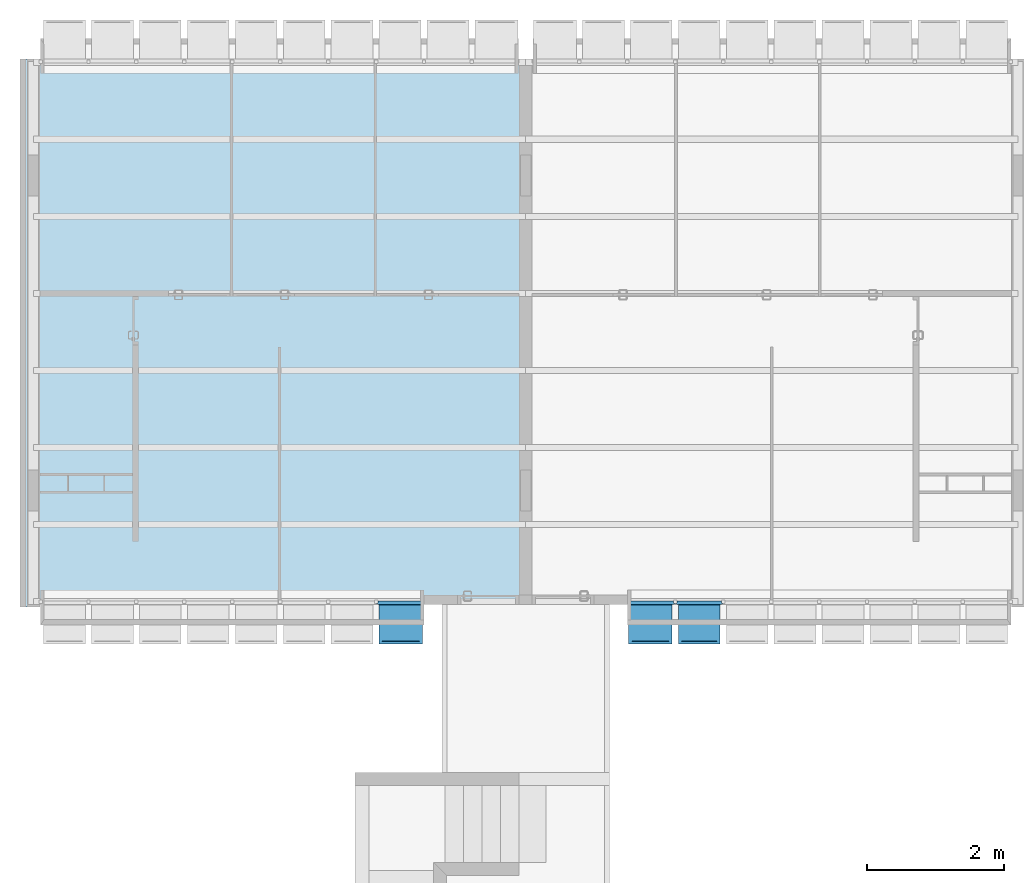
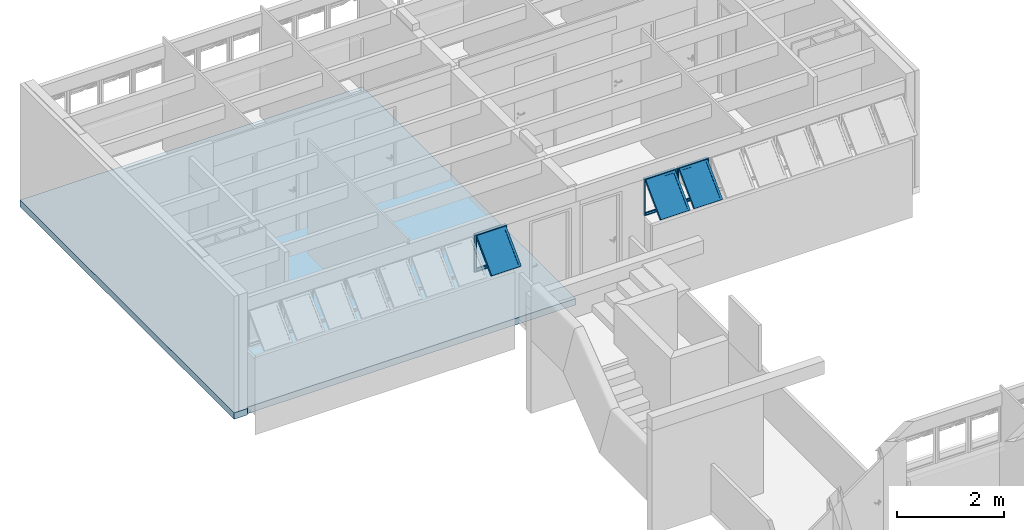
# One storey, part 12 of 41: 3 plates, 1 slab, 2 elements without a shape of their own.
"""IFC4 building model written with IfcOpenShell, lengths in millimetres."""

from ifc_helpers import new_model, entity, si_unit, converted_unit, derived_unit, direction, frame, origin_with_axes, place, context, subcontext, project, spatial, line, indexed_curve, outline, extrude, polygons, source, transform, mapped, material, layer, layer_set, layer_usage, constituent, constituent_set, type_object, element, aggregate, save


model = new_model("IFC4")

# Units and contexts
model_context = context("Model", 3, precision=0.01, world=origin_with_axes(), true_north=direction((0.0, 1.0)))
body_context = subcontext(model_context, "Body", "Model", "MODEL_VIEW")
ifc_project = project(units=[si_unit("LENGTHUNIT", "METRE", prefix="MILLI"), si_unit("AREAUNIT", "SQUARE_METRE"), si_unit("VOLUMEUNIT", "CUBIC_METRE"), converted_unit("PLANEANGLEUNIT", "DEGREE", entity("IfcPlaneAngleMeasure", 0.0174532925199), si_unit("PLANEANGLEUNIT", "RADIAN"), dimensions=[0, 0, 0, 0, 0, 0, 0]), converted_unit("TIMEUNIT", "Year", entity("IfcTimeMeasure", 31556926.0), si_unit("TIMEUNIT", "SECOND"), dimensions=[0, 0, 1, 0, 0, 0, 0]), si_unit("MASSUNIT", "GRAM", prefix="KILO"), si_unit("THERMODYNAMICTEMPERATUREUNIT", "DEGREE_CELSIUS"), si_unit("LUMINOUSINTENSITYUNIT", "LUMEN"), si_unit("ENERGYUNIT", "JOULE", prefix="MEGA"), derived_unit("THERMALCONDUCTANCEUNIT", [(si_unit("POWERUNIT", "WATT"), 1), (si_unit("LENGTHUNIT", "METRE"), -1), (si_unit("THERMODYNAMICTEMPERATUREUNIT", "KELVIN"), -1)]), derived_unit("SPECIFICHEATCAPACITYUNIT", [(si_unit("ENERGYUNIT", "JOULE"), 1), (si_unit("MASSUNIT", "GRAM", prefix="KILO"), -1), (si_unit("THERMODYNAMICTEMPERATUREUNIT", "KELVIN"), -1)]), derived_unit("MASSDENSITYUNIT", [(si_unit("MASSUNIT", "GRAM", prefix="KILO"), 1), (si_unit("VOLUMEUNIT", "CUBIC_METRE"), -1)])], contexts=[model_context])

# Site, building, storey
site_placement = place(None, origin_with_axes())
site = spatial("IfcSite", under=ifc_project, at=site_placement, Name="Local", CompositionType="ELEMENT")
building_placement = place(site_placement, origin_with_axes())
building = spatial("IfcBuilding", under=site, at=building_placement, Name="Construção", CompositionType="ELEMENT")
storey_placement = place(building_placement, frame((0.0, 0.0, 2650.0), z_axis=(0.0, 0.0, 1.0), x_axis=(1.0, 0.0, 0.0)))
storey = spatial("IfcBuildingStorey", under=building, at=storey_placement, Name="Segundo Pavimento", CompositionType="ELEMENT", Elevation=2650.0)

# Slab
ifc_material_1 = material(Name="Concreto Armado Moldado in Loco - Estrutural")
ifc_layer = layer(ifc_material_1, 150.0, ventilated="UNKNOWN", Name="Concreto Armado Moldado in Loco - Estrutural")
ifc_layer_set = layer_set([ifc_layer], Name="Concreto Armado Moldado in Loco - Estrutural 150")
ifc_layer_usage = layer_usage(ifc_layer_set, "AXIS3", "NEGATIVE", 150.0)
slab_type = type_object("IfcSlabType", Name="Concreto Armado Moldado in Loco - Estrutural 150", PredefinedType="FLOOR")
slab_placement = place(storey_placement, frame((0.0, 25860.0, 0.0), z_axis=(0.0, 0.0, 1.0), x_axis=(1.0, 0.0, 0.0)))
element("IfcSlab", 1, at=slab_placement, inside=storey, type_object=slab_type, material=ifc_layer_usage, Name="APTO7-LAJE-000", PredefinedType="FLOOR", context=body_context, shape_type="SweptSolid", body=[
    extrude(outline(indexed_curve([(0.0, 0.0), (0.0, -7999.99999872), (289.999999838, -8000.00000006), (290.0, -7965.0), (5900.0, -7965.0), (6160.00008404, -7964.99999866), (7385.0, -7964.99999866), (7385.0, 0.0), (299.999978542, 0.0)], segments=[line(1, 2, 3, 4, 5, 6, 7, 8, 9, 1)])), frame((0.0, 0.0, -150.0), z_axis=(0.0, 0.0, 1.0), x_axis=(1.0, 0.0, 0.0)), (0.0, 0.0, 1.0), 150.0),
])

# Window, plates
window_type = type_object("IfcWindowType", Name="Tipo de Parede Cortina", PartitioningType="NOTDEFINED", PredefinedType="NOTDEFINED")
window_1_placement = place(storey_placement, frame((12020.0, 17910.0, 1355.00007107), z_axis=(0.0, 0.0, 1.0), x_axis=(1.0, 0.0, 0.0)))
window_1 = element("IfcWindow", 2, at=window_1_placement, inside=storey, type_object=window_type, Name="APTO8-JANELA-000", PredefinedType="NOTDEFINED")
ifc_material_2 = material(Name="Alumínio")
ifc_constituent_1 = constituent(ifc_material_2, Name="Alumínio")
ifc_material_3 = material(Name="Vidro")
ifc_constituent_2 = constituent(ifc_material_3, Name="Vidro")
ifc_constituent_set_1 = constituent_set(constituents=[ifc_constituent_1, ifc_constituent_2])
plate_type_1 = type_object("IfcPlateType", Name="Painel Principal 690 x 845 x 20", PredefinedType="CURTAIN_PANEL")
shared_shape_1 = source(origin_with_axes(), body_context, "Body", "Tessellation", [
    polygons([(-25.0000036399, 0.0, -40.0), (-25.0000036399, 0.0, -35.0), (-674.999997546, 0.0, -35.0), (-674.999997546, 0.0, -40.0), (-70.0000036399, 45.0, -40.0), (-70.0000036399, 45.0, -35.0), (-629.999997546, 45.0, -35.0), (-629.999997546, 45.0, -40.0)], [[[1, 2, 3, 4]], [[5, 6, 2, 1]], [[2, 6, 7, 3]], [[4, 3, 7, 8]], [[1, 4, 8, 5]], [[8, 7, 6, 5]]], closed=True),
    polygons([(-674.999997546, 0.0, -40.0), (-674.999997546, 0.0, -35.0), (-674.999997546, 844.999891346, -35.0), (-674.999997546, 844.999891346, -40.0), (-629.999997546, 45.0, -40.0), (-629.999997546, 45.0, -35.0), (-629.999997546, 799.999891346, -35.0), (-629.999997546, 799.999891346, -40.0)], [[[1, 2, 3, 4]], [[5, 6, 2, 1]], [[2, 6, 7, 3]], [[4, 3, 7, 8]], [[1, 4, 8, 5]], [[8, 7, 6, 5]]], closed=True),
    polygons([(-25.0000036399, 844.999891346, -40.0), (-25.0000036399, 844.999891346, -35.0), (-70.0000036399, 799.999891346, -35.0), (-70.0000036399, 799.999891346, -40.0), (-674.999997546, 844.999891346, -40.0), (-674.999997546, 844.999891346, -35.0), (-629.999997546, 799.999891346, -35.0), (-629.999997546, 799.999891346, -40.0)], [[[1, 2, 3, 4]], [[5, 6, 2, 1]], [[2, 6, 7, 3]], [[4, 3, 7, 8]], [[1, 4, 8, 5]], [[8, 7, 6, 5]]], closed=True),
    polygons([(-25.0000036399, 0.0, -40.0), (-25.0000036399, 0.0, -35.0), (-70.0000036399, 45.0, -35.0), (-70.0000036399, 45.0, -40.0), (-25.0000036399, 844.999891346, -40.0), (-25.0000036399, 844.999891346, -35.0), (-70.0000036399, 799.999891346, -35.0), (-70.0000036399, 799.999891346, -40.0)], [[[1, 2, 3, 4]], [[5, 6, 2, 1]], [[2, 6, 7, 3]], [[4, 3, 7, 8]], [[1, 4, 8, 5]], [[8, 7, 6, 5]]], closed=True),
    polygons([(-25.0000036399, 0.0, -35.0), (-25.0000036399, 0.0, 15.0), (-674.999997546, 0.0, 15.0), (-674.999997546, 0.0, -35.0), (-45.0000036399, 20.0, -35.0), (-45.0000036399, 20.0, 15.0), (-654.999997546, 20.0, 15.0), (-654.999997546, 20.0, -35.0)], [[[1, 2, 3, 4]], [[5, 6, 2, 1]], [[2, 6, 7, 3]], [[4, 3, 7, 8]], [[1, 4, 8, 5]], [[8, 7, 6, 5]]], closed=True),
    polygons([(-674.999997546, 0.0, -35.0), (-674.999997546, 0.0, 15.0), (-674.999997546, 844.999891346, 15.0), (-674.999997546, 844.999891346, -35.0), (-654.999997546, 20.0, -35.0), (-654.999997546, 20.0, 15.0), (-654.999997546, 824.999891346, 15.0), (-654.999997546, 824.999891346, -35.0)], [[[1, 2, 3, 4]], [[5, 6, 2, 1]], [[2, 6, 7, 3]], [[4, 3, 7, 8]], [[1, 4, 8, 5]], [[8, 7, 6, 5]]], closed=True),
    polygons([(-25.0000036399, 844.999891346, -35.0), (-25.0000036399, 844.999891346, 15.0), (-45.0000036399, 824.999891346, 15.0), (-45.0000036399, 824.999891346, -35.0), (-674.999997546, 844.999891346, -35.0), (-674.999997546, 844.999891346, 15.0), (-654.999997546, 824.999891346, 15.0), (-654.999997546, 824.999891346, -35.0)], [[[1, 2, 3, 4]], [[5, 6, 2, 1]], [[2, 6, 7, 3]], [[4, 3, 7, 8]], [[1, 4, 8, 5]], [[8, 7, 6, 5]]], closed=True),
    polygons([(-25.0000036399, 0.0, -35.0), (-25.0000036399, 0.0, 15.0), (-45.0000036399, 20.0, 15.0), (-45.0000036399, 20.0, -35.0), (-25.0000036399, 844.999891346, -35.0), (-25.0000036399, 844.999891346, 15.0), (-45.0000036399, 824.999891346, 15.0), (-45.0000036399, 824.999891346, -35.0)], [[[1, 2, 3, 4]], [[5, 6, 2, 1]], [[2, 6, 7, 3]], [[4, 3, 7, 8]], [[1, 4, 8, 5]], [[8, 7, 6, 5]]], closed=True),
    polygons([(-694.999995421, 0.0, -10.0), (-694.999995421, 0.0, 10.0), (-694.999995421, 844.999891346, 10.0), (-694.999995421, 844.999891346, -10.0), (-674.999997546, 0.0, -10.0), (-674.999997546, 0.0, 10.0), (-674.999997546, 844.999891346, 10.0), (-674.999997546, 844.999891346, -10.0)], [[[1, 2, 3, 4]], [[5, 6, 2, 1]], [[2, 6, 7, 3]], [[4, 3, 7, 8]], [[1, 4, 8, 5]], [[8, 7, 6, 5]]], closed=True),
    polygons([(-5.00000576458, 844.999891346, -10.0), (-5.00000576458, 844.999891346, 10.0), (-5.00000576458, 0.0, 10.0), (-5.00000576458, 0.0, -10.0), (-25.0000036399, 844.999891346, -10.0), (-25.0000036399, 844.999891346, 10.0), (-25.0000036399, 0.0, 10.0), (-25.0000036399, 0.0, -10.0)], [[[1, 2, 3, 4]], [[5, 6, 2, 1]], [[2, 6, 7, 3]], [[4, 3, 7, 8]], [[1, 4, 8, 5]], [[8, 7, 6, 5]]], closed=True),
    polygons([(-90.0000036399, 252.243475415, 517.045737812), (-90.0000036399, 291.13434838, 555.936610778), (-90.0000036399, 796.715620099, 50.3553390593), (-90.0000036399, 757.824747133, 11.4644660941), (-45.0000036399, 220.423670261, 548.865542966), (-45.0000036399, 259.314543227, 587.756415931), (-45.0000036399, 828.535425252, 18.5355339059), (-45.0000036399, 789.644552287, -20.3553390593)], [[[1, 2, 3, 4]], [[5, 6, 2, 1]], [[2, 6, 7, 3]], [[4, 3, 7, 8]], [[1, 4, 8, 5]], [[8, 7, 6, 5]]], closed=True),
    polygons([(-654.999997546, 220.423670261, 548.865542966), (-654.999997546, 259.314543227, 587.756415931), (-654.999997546, 828.535425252, 18.5355339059), (-654.999997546, 789.644552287, -20.3553390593), (-609.999997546, 252.243475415, 517.045737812), (-609.999997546, 291.13434838, 555.936610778), (-609.999997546, 796.715620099, 50.3553390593), (-609.999997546, 757.824747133, 11.4644660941)], [[[1, 2, 3, 4]], [[5, 6, 2, 1]], [[2, 6, 7, 3]], [[4, 3, 7, 8]], [[1, 4, 8, 5]], [[8, 7, 6, 5]]], closed=True),
    polygons([(-654.999997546, 220.423670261, 548.865542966), (-654.999997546, 259.314543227, 587.756415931), (-609.999997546, 291.13434838, 555.936610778), (-609.999997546, 252.243475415, 517.045737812), (-45.0000036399, 220.423670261, 548.865542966), (-45.0000036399, 259.314543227, 587.756415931), (-90.0000036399, 291.13434838, 555.936610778), (-90.0000036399, 252.243475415, 517.045737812)], [[[1, 2, 3, 4]], [[5, 6, 2, 1]], [[2, 6, 7, 3]], [[4, 3, 7, 8]], [[1, 4, 8, 5]], [[8, 7, 6, 5]]], closed=True),
    polygons([(-45.0000036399, 789.644552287, -20.3553390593), (-45.0000036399, 828.535425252, 18.5355339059), (-90.0000036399, 796.715620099, 50.3553390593), (-90.0000036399, 757.824747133, 11.4644660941), (-654.999997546, 789.644552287, -20.3553390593), (-654.999997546, 828.535425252, 18.5355339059), (-609.999997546, 796.715620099, 50.3553390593), (-609.999997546, 757.824747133, 11.4644660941)], [[[1, 2, 3, 4]], [[5, 6, 2, 1]], [[2, 6, 7, 3]], [[4, 3, 7, 8]], [[1, 4, 8, 5]], [[8, 7, 6, 5]]], closed=True),
    polygons([(-90.0000036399, 272.749572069, 537.551834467), (-90.0000036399, 284.063280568, 548.865542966), (-609.999997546, 284.063280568, 548.865542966), (-609.999997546, 272.749572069, 537.551834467), (-90.0000036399, 778.330843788, 31.9705627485), (-90.0000036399, 789.644552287, 43.2842712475), (-609.999997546, 789.644552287, 43.2842712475), (-609.999997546, 778.330843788, 31.9705627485)], [[[1, 2, 3, 4]], [[5, 6, 2, 1]], [[2, 6, 7, 3]], [[4, 3, 7, 8]], [[1, 4, 8, 5]], [[8, 7, 6, 5]]], closed=True),
])
plate_1_placement = place(window_1_placement, frame((-2100.0, 0.0, 422.499964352), z_axis=(0.0, 0.0, 1.0), x_axis=(1.0, 0.0, 0.0)))
plate_1 = element("IfcPlate", 3, at=plate_1_placement, type_object=plate_type_1, material=ifc_constituent_set_1, Name="APTO8-Painel-Prin-029", PredefinedType="CURTAIN_PANEL", context=body_context, shape_type="MappedRepresentation", body=[
    mapped(shared_shape_1, transform((350.0, 0.0, -422.499964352), x_axis=(1.0, 0.0, 0.0), y_axis=(0.0, 0.0, 1.0), z_axis=(0.0, -1.0, 0.0))),
])
ifc_constituent_3 = constituent(ifc_material_2, Name="Alumínio")
ifc_constituent_4 = constituent(ifc_material_3, Name="Vidro")
ifc_constituent_set_2 = constituent_set(constituents=[ifc_constituent_3, ifc_constituent_4])
plate_type_2 = type_object("IfcPlateType", Name="Painel Principal 695 x 845 x 20", PredefinedType="CURTAIN_PANEL")
shared_shape_2 = source(origin_with_axes(), body_context, "Body", "Tessellation", [
    polygons([(-25.0000062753, 0.0, -40.0), (-25.0000062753, 0.0, -35.0), (-699.999999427, 0.0, -35.0), (-699.999999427, 0.0, -40.0), (-70.0000062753, 45.0, -40.0), (-70.0000062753, 45.0, -35.0), (-654.999999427, 45.0, -35.0), (-654.999999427, 45.0, -40.0)], [[[1, 2, 3, 4]], [[5, 6, 2, 1]], [[2, 6, 7, 3]], [[4, 3, 7, 8]], [[1, 4, 8, 5]], [[8, 7, 6, 5]]], closed=True),
    polygons([(-699.999999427, 0.0, -40.0), (-699.999999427, 0.0, -35.0), (-699.999999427, 844.999980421, -35.0), (-699.999999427, 844.999980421, -40.0), (-654.999999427, 45.0, -40.0), (-654.999999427, 45.0, -35.0), (-654.999999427, 799.999980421, -35.0), (-654.999999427, 799.999980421, -40.0)], [[[1, 2, 3, 4]], [[5, 6, 2, 1]], [[2, 6, 7, 3]], [[4, 3, 7, 8]], [[1, 4, 8, 5]], [[8, 7, 6, 5]]], closed=True),
    polygons([(-25.0000062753, 844.999980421, -40.0), (-25.0000062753, 844.999980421, -35.0), (-70.0000062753, 799.999980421, -35.0), (-70.0000062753, 799.999980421, -40.0), (-699.999999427, 844.999980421, -40.0), (-699.999999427, 844.999980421, -35.0), (-654.999999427, 799.999980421, -35.0), (-654.999999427, 799.999980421, -40.0)], [[[1, 2, 3, 4]], [[5, 6, 2, 1]], [[2, 6, 7, 3]], [[4, 3, 7, 8]], [[1, 4, 8, 5]], [[8, 7, 6, 5]]], closed=True),
    polygons([(-25.0000062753, 0.0, -40.0), (-25.0000062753, 0.0, -35.0), (-70.0000062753, 45.0, -35.0), (-70.0000062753, 45.0, -40.0), (-25.0000062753, 844.999980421, -40.0), (-25.0000062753, 844.999980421, -35.0), (-70.0000062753, 799.999980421, -35.0), (-70.0000062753, 799.999980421, -40.0)], [[[1, 2, 3, 4]], [[5, 6, 2, 1]], [[2, 6, 7, 3]], [[4, 3, 7, 8]], [[1, 4, 8, 5]], [[8, 7, 6, 5]]], closed=True),
    polygons([(-25.0000062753, 0.0, -35.0), (-25.0000062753, 0.0, 15.0), (-699.999999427, 0.0, 15.0), (-699.999999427, 0.0, -35.0), (-45.0000062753, 20.0, -35.0), (-45.0000062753, 20.0, 15.0), (-679.999999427, 20.0, 15.0), (-679.999999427, 20.0, -35.0)], [[[1, 2, 3, 4]], [[5, 6, 2, 1]], [[2, 6, 7, 3]], [[4, 3, 7, 8]], [[1, 4, 8, 5]], [[8, 7, 6, 5]]], closed=True),
    polygons([(-699.999999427, 0.0, -35.0), (-699.999999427, 0.0, 15.0), (-699.999999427, 844.999980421, 15.0), (-699.999999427, 844.999980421, -35.0), (-679.999999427, 20.0, -35.0), (-679.999999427, 20.0, 15.0), (-679.999999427, 824.999980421, 15.0), (-679.999999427, 824.999980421, -35.0)], [[[1, 2, 3, 4]], [[5, 6, 2, 1]], [[2, 6, 7, 3]], [[4, 3, 7, 8]], [[1, 4, 8, 5]], [[8, 7, 6, 5]]], closed=True),
    polygons([(-25.0000062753, 844.999980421, -35.0), (-25.0000062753, 844.999980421, 15.0), (-45.0000062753, 824.999980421, 15.0), (-45.0000062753, 824.999980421, -35.0), (-699.999999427, 844.999980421, -35.0), (-699.999999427, 844.999980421, 15.0), (-679.999999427, 824.999980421, 15.0), (-679.999999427, 824.999980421, -35.0)], [[[1, 2, 3, 4]], [[5, 6, 2, 1]], [[2, 6, 7, 3]], [[4, 3, 7, 8]], [[1, 4, 8, 5]], [[8, 7, 6, 5]]], closed=True),
    polygons([(-25.0000062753, 0.0, -35.0), (-25.0000062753, 0.0, 15.0), (-45.0000062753, 20.0, 15.0), (-45.0000062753, 20.0, -35.0), (-25.0000062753, 844.999980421, -35.0), (-25.0000062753, 844.999980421, 15.0), (-45.0000062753, 824.999980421, 15.0), (-45.0000062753, 824.999980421, -35.0)], [[[1, 2, 3, 4]], [[5, 6, 2, 1]], [[2, 6, 7, 3]], [[4, 3, 7, 8]], [[1, 4, 8, 5]], [[8, 7, 6, 5]]], closed=True),
    polygons([(-5.00000629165, 844.999980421, -10.0), (-5.00000629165, 844.999980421, 10.0), (-5.00000629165, 0.0, 10.0), (-5.00000629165, 0.0, -10.0), (-25.0000062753, 844.999980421, -10.0), (-25.0000062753, 844.999980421, 10.0), (-25.0000062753, 0.0, 10.0), (-25.0000062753, 0.0, -10.0)], [[[1, 2, 3, 4]], [[5, 6, 2, 1]], [[2, 6, 7, 3]], [[4, 3, 7, 8]], [[1, 4, 8, 5]], [[8, 7, 6, 5]]], closed=True),
    polygons([(-90.0000062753, 252.243501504, 517.045800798), (-90.0000062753, 291.134374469, 555.936673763), (-90.0000062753, 796.715709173, 50.3553390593), (-90.0000062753, 757.824836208, 11.4644660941), (-45.0000062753, 220.423696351, 548.865605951), (-45.0000062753, 259.314569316, 587.756478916), (-45.0000062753, 828.535514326, 18.5355339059), (-45.0000062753, 789.644641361, -20.3553390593)], [[[1, 2, 3, 4]], [[5, 6, 2, 1]], [[2, 6, 7, 3]], [[4, 3, 7, 8]], [[1, 4, 8, 5]], [[8, 7, 6, 5]]], closed=True),
    polygons([(-679.999999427, 220.423696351, 548.865605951), (-679.999999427, 259.314569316, 587.756478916), (-679.999999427, 828.535514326, 18.5355339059), (-679.999999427, 789.644641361, -20.3553390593), (-634.999999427, 252.243501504, 517.045800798), (-634.999999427, 291.134374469, 555.936673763), (-634.999999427, 796.715709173, 50.3553390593), (-634.999999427, 757.824836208, 11.4644660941)], [[[1, 2, 3, 4]], [[5, 6, 2, 1]], [[2, 6, 7, 3]], [[4, 3, 7, 8]], [[1, 4, 8, 5]], [[8, 7, 6, 5]]], closed=True),
    polygons([(-679.999999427, 220.423696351, 548.865605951), (-679.999999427, 259.314569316, 587.756478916), (-634.999999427, 291.134374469, 555.936673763), (-634.999999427, 252.243501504, 517.045800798), (-45.0000062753, 220.423696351, 548.865605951), (-45.0000062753, 259.314569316, 587.756478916), (-90.0000062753, 291.134374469, 555.936673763), (-90.0000062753, 252.243501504, 517.045800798)], [[[1, 2, 3, 4]], [[5, 6, 2, 1]], [[2, 6, 7, 3]], [[4, 3, 7, 8]], [[1, 4, 8, 5]], [[8, 7, 6, 5]]], closed=True),
    polygons([(-45.0000062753, 789.644641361, -20.3553390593), (-45.0000062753, 828.535514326, 18.5355339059), (-90.0000062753, 796.715709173, 50.3553390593), (-90.0000062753, 757.824836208, 11.4644660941), (-679.999999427, 789.644641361, -20.3553390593), (-679.999999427, 828.535514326, 18.5355339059), (-634.999999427, 796.715709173, 50.3553390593), (-634.999999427, 757.824836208, 11.4644660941)], [[[1, 2, 3, 4]], [[5, 6, 2, 1]], [[2, 6, 7, 3]], [[4, 3, 7, 8]], [[1, 4, 8, 5]], [[8, 7, 6, 5]]], closed=True),
    polygons([(-90.0000062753, 272.749598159, 537.551897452), (-90.0000062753, 284.063306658, 548.865605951), (-634.999999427, 284.063306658, 548.865605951), (-634.999999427, 272.749598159, 537.551897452), (-90.0000062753, 778.330932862, 31.9705627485), (-90.0000062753, 789.644641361, 43.2842712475), (-634.999999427, 789.644641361, 43.2842712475), (-634.999999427, 778.330932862, 31.9705627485)], [[[1, 2, 3, 4]], [[5, 6, 2, 1]], [[2, 6, 7, 3]], [[4, 3, 7, 8]], [[1, 4, 8, 5]], [[8, 7, 6, 5]]], closed=True),
])
plate_2_placement = place(window_1_placement, frame((-2800.0, 0.0, 422.499986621), z_axis=(0.0, 0.0, 1.0), x_axis=(1.0, 0.0, 0.0)))
plate_2 = element("IfcPlate", 4, at=plate_2_placement, type_object=plate_type_2, material=ifc_constituent_set_2, Name="APTO8-Painel-Prin-020", PredefinedType="CURTAIN_PANEL", context=body_context, shape_type="MappedRepresentation", body=[
    mapped(shared_shape_2, transform((350.0, 0.0, -422.499986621), x_axis=(1.0, 0.0, 0.0), y_axis=(0.0, 0.0, 1.0), z_axis=(0.0, -1.0, 0.0))),
])
aggregate(window_1, [plate_1, plate_2])

# Window, plate
window_2_placement = place(storey_placement, frame((2750.0, 17910.0, 1355.00007107), z_axis=(0.0, 0.0, 1.0), x_axis=(1.0, 0.0, 0.0)))
window_2 = element("IfcWindow", 5, at=window_2_placement, inside=storey, type_object=window_type, Name="APTO7-JANELA-000", PredefinedType="NOTDEFINED")
ifc_constituent_5 = constituent(ifc_material_2, Name="Alumínio")
ifc_constituent_6 = constituent(ifc_material_3, Name="Vidro")
ifc_constituent_set_3 = constituent_set(constituents=[ifc_constituent_5, ifc_constituent_6])
shared_shape_3 = source(origin_with_axes(), body_context, "Body", "Tessellation", [
    polygons([(25.0000062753, 0.0, -40.0), (699.999999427, 0.0, -40.0), (699.999999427, 0.0, -35.0), (25.0000062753, 0.0, -35.0), (70.0000062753, 45.0, -40.0), (654.999999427, 45.0, -40.0), (654.999999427, 45.0, -35.0), (70.0000062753, 45.0, -35.0)], [[[1, 2, 3, 4]], [[1, 5, 6, 2]], [[2, 6, 7, 3]], [[4, 3, 7, 8]], [[5, 1, 4, 8]], [[6, 5, 8, 7]]], closed=True),
    polygons([(699.999999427, 0.0, -40.0), (699.999999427, 844.999980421, -40.0), (699.999999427, 844.999980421, -35.0), (699.999999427, 0.0, -35.0), (654.999999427, 45.0, -40.0), (654.999999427, 799.999980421, -40.0), (654.999999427, 799.999980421, -35.0), (654.999999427, 45.0, -35.0)], [[[1, 2, 3, 4]], [[1, 5, 6, 2]], [[2, 6, 7, 3]], [[4, 3, 7, 8]], [[5, 1, 4, 8]], [[6, 5, 8, 7]]], closed=True),
    polygons([(25.0000062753, 844.999980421, -40.0), (70.0000062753, 799.999980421, -40.0), (70.0000062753, 799.999980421, -35.0), (25.0000062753, 844.999980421, -35.0), (699.999999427, 844.999980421, -40.0), (654.999999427, 799.999980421, -40.0), (654.999999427, 799.999980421, -35.0), (699.999999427, 844.999980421, -35.0)], [[[1, 2, 3, 4]], [[1, 5, 6, 2]], [[2, 6, 7, 3]], [[4, 3, 7, 8]], [[5, 1, 4, 8]], [[6, 5, 8, 7]]], closed=True),
    polygons([(25.0000062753, 0.0, -40.0), (70.0000062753, 45.0, -40.0), (70.0000062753, 45.0, -35.0), (25.0000062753, 0.0, -35.0), (25.0000062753, 844.999980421, -40.0), (70.0000062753, 799.999980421, -40.0), (70.0000062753, 799.999980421, -35.0), (25.0000062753, 844.999980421, -35.0)], [[[1, 2, 3, 4]], [[1, 5, 6, 2]], [[2, 6, 7, 3]], [[4, 3, 7, 8]], [[5, 1, 4, 8]], [[6, 5, 8, 7]]], closed=True),
    polygons([(25.0000062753, 0.0, -35.0), (699.999999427, 0.0, -35.0), (699.999999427, 0.0, 15.0), (25.0000062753, 0.0, 15.0), (45.0000062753, 20.0, -35.0), (679.999999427, 20.0, -35.0), (679.999999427, 20.0, 15.0), (45.0000062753, 20.0, 15.0)], [[[1, 2, 3, 4]], [[1, 5, 6, 2]], [[2, 6, 7, 3]], [[4, 3, 7, 8]], [[5, 1, 4, 8]], [[6, 5, 8, 7]]], closed=True),
    polygons([(699.999999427, 0.0, -35.0), (699.999999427, 844.999980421, -35.0), (699.999999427, 844.999980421, 15.0), (699.999999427, 0.0, 15.0), (679.999999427, 20.0, -35.0), (679.999999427, 824.999980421, -35.0), (679.999999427, 824.999980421, 15.0), (679.999999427, 20.0, 15.0)], [[[1, 2, 3, 4]], [[1, 5, 6, 2]], [[2, 6, 7, 3]], [[4, 3, 7, 8]], [[5, 1, 4, 8]], [[6, 5, 8, 7]]], closed=True),
    polygons([(25.0000062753, 844.999980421, -35.0), (45.0000062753, 824.999980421, -35.0), (45.0000062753, 824.999980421, 15.0), (25.0000062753, 844.999980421, 15.0), (699.999999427, 844.999980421, -35.0), (679.999999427, 824.999980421, -35.0), (679.999999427, 824.999980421, 15.0), (699.999999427, 844.999980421, 15.0)], [[[1, 2, 3, 4]], [[1, 5, 6, 2]], [[2, 6, 7, 3]], [[4, 3, 7, 8]], [[5, 1, 4, 8]], [[6, 5, 8, 7]]], closed=True),
    polygons([(25.0000062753, 0.0, -35.0), (45.0000062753, 20.0, -35.0), (45.0000062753, 20.0, 15.0), (25.0000062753, 0.0, 15.0), (25.0000062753, 844.999980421, -35.0), (45.0000062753, 824.999980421, -35.0), (45.0000062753, 824.999980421, 15.0), (25.0000062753, 844.999980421, 15.0)], [[[1, 2, 3, 4]], [[1, 5, 6, 2]], [[2, 6, 7, 3]], [[4, 3, 7, 8]], [[5, 1, 4, 8]], [[6, 5, 8, 7]]], closed=True),
    polygons([(5.00000629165, 844.999980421, -10.0), (5.00000629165, 0.0, -10.0), (5.00000629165, 0.0, 10.0), (5.00000629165, 844.999980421, 10.0), (25.0000062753, 844.999980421, -10.0), (25.0000062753, 0.0, -10.0), (25.0000062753, 0.0, 10.0), (25.0000062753, 844.999980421, 10.0)], [[[1, 2, 3, 4]], [[1, 5, 6, 2]], [[2, 6, 7, 3]], [[4, 3, 7, 8]], [[5, 1, 4, 8]], [[6, 5, 8, 7]]], closed=True),
    polygons([(90.0000062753, 252.243501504, 517.045800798), (90.0000062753, 757.824836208, 11.4644660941), (90.0000062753, 796.715709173, 50.3553390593), (90.0000062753, 291.134374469, 555.936673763), (45.0000062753, 220.423696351, 548.865605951), (45.0000062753, 789.644641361, -20.3553390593), (45.0000062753, 828.535514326, 18.5355339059), (45.0000062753, 259.314569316, 587.756478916)], [[[1, 2, 3, 4]], [[1, 5, 6, 2]], [[2, 6, 7, 3]], [[4, 3, 7, 8]], [[5, 1, 4, 8]], [[6, 5, 8, 7]]], closed=True),
    polygons([(679.999999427, 220.423696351, 548.865605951), (679.999999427, 789.644641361, -20.3553390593), (679.999999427, 828.535514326, 18.5355339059), (679.999999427, 259.314569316, 587.756478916), (634.999999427, 252.243501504, 517.045800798), (634.999999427, 757.824836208, 11.4644660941), (634.999999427, 796.715709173, 50.3553390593), (634.999999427, 291.134374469, 555.936673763)], [[[1, 2, 3, 4]], [[1, 5, 6, 2]], [[2, 6, 7, 3]], [[4, 3, 7, 8]], [[5, 1, 4, 8]], [[6, 5, 8, 7]]], closed=True),
    polygons([(679.999999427, 220.423696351, 548.865605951), (634.999999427, 252.243501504, 517.045800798), (634.999999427, 291.134374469, 555.936673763), (679.999999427, 259.314569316, 587.756478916), (45.0000062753, 220.423696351, 548.865605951), (90.0000062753, 252.243501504, 517.045800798), (90.0000062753, 291.134374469, 555.936673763), (45.0000062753, 259.314569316, 587.756478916)], [[[1, 2, 3, 4]], [[1, 5, 6, 2]], [[2, 6, 7, 3]], [[4, 3, 7, 8]], [[5, 1, 4, 8]], [[6, 5, 8, 7]]], closed=True),
    polygons([(45.0000062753, 789.644641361, -20.3553390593), (90.0000062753, 757.824836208, 11.4644660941), (90.0000062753, 796.715709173, 50.3553390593), (45.0000062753, 828.535514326, 18.5355339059), (679.999999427, 789.644641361, -20.3553390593), (634.999999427, 757.824836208, 11.4644660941), (634.999999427, 796.715709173, 50.3553390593), (679.999999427, 828.535514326, 18.5355339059)], [[[1, 2, 3, 4]], [[1, 5, 6, 2]], [[2, 6, 7, 3]], [[4, 3, 7, 8]], [[5, 1, 4, 8]], [[6, 5, 8, 7]]], closed=True),
    polygons([(90.0000062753, 272.749598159, 537.551897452), (634.999999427, 272.749598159, 537.551897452), (634.999999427, 284.063306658, 548.865605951), (90.0000062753, 284.063306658, 548.865605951), (90.0000062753, 778.330932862, 31.9705627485), (634.999999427, 778.330932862, 31.9705627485), (634.999999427, 789.644641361, 43.2842712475), (90.0000062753, 789.644641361, 43.2842712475)], [[[1, 2, 3, 4]], [[1, 5, 6, 2]], [[2, 6, 7, 3]], [[4, 3, 7, 8]], [[5, 1, 4, 8]], [[6, 5, 8, 7]]], closed=True),
])
plate_3_placement = place(window_2_placement, frame((2800.0, 0.0, 422.499986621), z_axis=(0.0, 0.0, 1.0), x_axis=(-1.0, 0.0, 0.0)))
plate_3 = element("IfcPlate", 6, at=plate_3_placement, type_object=plate_type_2, material=ifc_constituent_set_3, Name="APTO7-Painel-Prin-020", PredefinedType="CURTAIN_PANEL", context=body_context, shape_type="MappedRepresentation", body=[
    mapped(shared_shape_3, transform((350.0, 0.0, -422.499986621), x_axis=(-1.0, 0.0, 0.0), y_axis=(0.0, 0.0, 1.0), z_axis=(0.0, 1.0, 0.0))),
])
aggregate(window_2, [plate_3])

save(model, "model.ifc")
